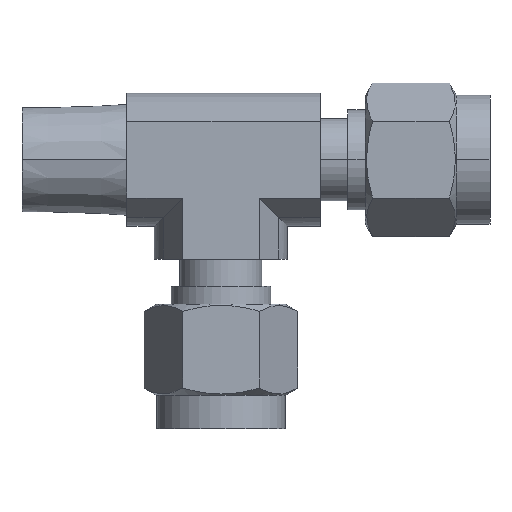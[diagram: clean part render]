
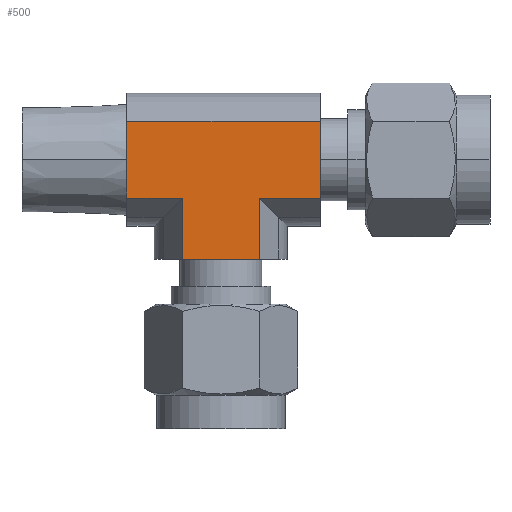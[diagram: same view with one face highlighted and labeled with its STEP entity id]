
A CAD part, top view. The second image highlights one B-rep face of the part: STEP entity #500.
In plain terms, the highlighted planar face has unit normal (0, 0, 1).
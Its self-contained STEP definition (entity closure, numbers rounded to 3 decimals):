
#413 = EDGE_CURVE ( 'NONE', #425, #426, #1834, .T. ) ;
#425 = VERTEX_POINT ( 'NONE', #1819 ) ;
#426 = VERTEX_POINT ( 'NONE', #1818 ) ;
#443 = VERTEX_POINT ( 'NONE', #1792 ) ;
#445 = EDGE_CURVE ( 'NONE', #443, #581, #1791, .T. ) ;
#498 = EDGE_CURVE ( 'NONE', #425, #631, #2159, .T. ) ;
#500 = ADVANCED_FACE ( 'NONE', ( #2155 ), #2153, .F. ) ;
#501 = EDGE_LOOP ( 'NONE', ( #502, #503, #522, #523, #525, #526, #527, #528 ) ) ;
#502 = ORIENTED_EDGE ( 'NONE', *, *, #696, .F. ) ;
#503 = ORIENTED_EDGE ( 'NONE', *, *, #521, .F. ) ;
#521 = EDGE_CURVE ( 'NONE', #581, #693, #2110, .T. ) ;
#522 = ORIENTED_EDGE ( 'NONE', *, *, #445, .F. ) ;
#523 = ORIENTED_EDGE ( 'NONE', *, *, #524, .T. ) ;
#524 = EDGE_CURVE ( 'NONE', #443, #683, #2106, .T. ) ;
#525 = ORIENTED_EDGE ( 'NONE', *, *, #688, .F. ) ;
#526 = ORIENTED_EDGE ( 'NONE', *, *, #413, .F. ) ;
#527 = ORIENTED_EDGE ( 'NONE', *, *, #498, .T. ) ;
#528 = ORIENTED_EDGE ( 'NONE', *, *, #633, .F. ) ;
#581 = VERTEX_POINT ( 'NONE', #2096 ) ;
#630 = VERTEX_POINT ( 'NONE', #1921 ) ;
#631 = VERTEX_POINT ( 'NONE', #1920 ) ;
#633 = EDGE_CURVE ( 'NONE', #630, #631, #1696, .T. ) ;
#683 = VERTEX_POINT ( 'NONE', #2375 ) ;
#688 = EDGE_CURVE ( 'NONE', #426, #683, #2316, .T. ) ;
#693 = VERTEX_POINT ( 'NONE', #2302 ) ;
#696 = EDGE_CURVE ( 'NONE', #693, #630, #2300, .T. ) ;
#1692 = DIRECTION ( 'NONE',  ( 0., 1., 0. ) ) ;
#1693 = VECTOR ( 'NONE', #1692, 1000. ) ;
#1694 = CARTESIAN_POINT ( 'NONE',  ( -9., -3.666, 6.35 ) ) ;
#1696 = LINE ( 'NONE', #1694, #1693 ) ;
#1788 = DIRECTION ( 'NONE',  ( -1., 0., 0. ) ) ;
#1789 = VECTOR ( 'NONE', #1788, 1000. ) ;
#1790 = CARTESIAN_POINT ( 'NONE',  ( 3.666, -9.5, 6.35 ) ) ;
#1791 = LINE ( 'NONE', #1790, #1789 ) ;
#1792 = CARTESIAN_POINT ( 'NONE',  ( 3.666, -9.5, 6.35 ) ) ;
#1818 = CARTESIAN_POINT ( 'NONE',  ( 9.5, -3.666, 6.35 ) ) ;
#1819 = CARTESIAN_POINT ( 'NONE',  ( 9.5, 3.666, 6.35 ) ) ;
#1831 = DIRECTION ( 'NONE',  ( 0., -1., 0. ) ) ;
#1832 = VECTOR ( 'NONE', #1831, 1000. ) ;
#1833 = CARTESIAN_POINT ( 'NONE',  ( 9.5, 3.666, 6.35 ) ) ;
#1834 = LINE ( 'NONE', #1833, #1832 ) ;
#1920 = CARTESIAN_POINT ( 'NONE',  ( -9., 3.666, 6.35 ) ) ;
#1921 = CARTESIAN_POINT ( 'NONE',  ( -9., -3.666, 6.35 ) ) ;
#2096 = CARTESIAN_POINT ( 'NONE',  ( -3.666, -9.5, 6.35 ) ) ;
#2103 = DIRECTION ( 'NONE',  ( 0., 1., 0. ) ) ;
#2104 = VECTOR ( 'NONE', #2103, 1000. ) ;
#2105 = CARTESIAN_POINT ( 'NONE',  ( 3.666, -9.5, 6.35 ) ) ;
#2106 = LINE ( 'NONE', #2105, #2104 ) ;
#2107 = DIRECTION ( 'NONE',  ( 0., 1., 0. ) ) ;
#2108 = VECTOR ( 'NONE', #2107, 1000. ) ;
#2109 = CARTESIAN_POINT ( 'NONE',  ( -3.666, -9.5, 6.35 ) ) ;
#2110 = LINE ( 'NONE', #2109, #2108 ) ;
#2149 = DIRECTION ( 'NONE',  ( 0., 1., 0. ) ) ;
#2150 = DIRECTION ( 'NONE',  ( 0., 0., -1. ) ) ;
#2151 = CARTESIAN_POINT ( 'NONE',  ( 9.5, 3.666, 6.35 ) ) ;
#2152 = AXIS2_PLACEMENT_3D ( 'NONE', #2151, #2150, #2149 ) ;
#2153 = PLANE ( 'NONE',  #2152 ) ;
#2155 = FACE_OUTER_BOUND ( 'NONE', #501, .T. ) ;
#2156 = DIRECTION ( 'NONE',  ( -1., 0., 0. ) ) ;
#2157 = VECTOR ( 'NONE', #2156, 1000. ) ;
#2158 = CARTESIAN_POINT ( 'NONE',  ( 9.5, 3.666, 6.35 ) ) ;
#2159 = LINE ( 'NONE', #2158, #2157 ) ;
#2297 = DIRECTION ( 'NONE',  ( -1., 0., 0. ) ) ;
#2298 = VECTOR ( 'NONE', #2297, 1000. ) ;
#2299 = CARTESIAN_POINT ( 'NONE',  ( 9.5, -3.666, 6.35 ) ) ;
#2300 = LINE ( 'NONE', #2299, #2298 ) ;
#2302 = CARTESIAN_POINT ( 'NONE',  ( -3.666, -3.666, 6.35 ) ) ;
#2313 = DIRECTION ( 'NONE',  ( -1., 0., 0. ) ) ;
#2314 = VECTOR ( 'NONE', #2313, 1000. ) ;
#2315 = CARTESIAN_POINT ( 'NONE',  ( 9.5, -3.666, 6.35 ) ) ;
#2316 = LINE ( 'NONE', #2315, #2314 ) ;
#2375 = CARTESIAN_POINT ( 'NONE',  ( 3.666, -3.666, 6.35 ) ) ;
